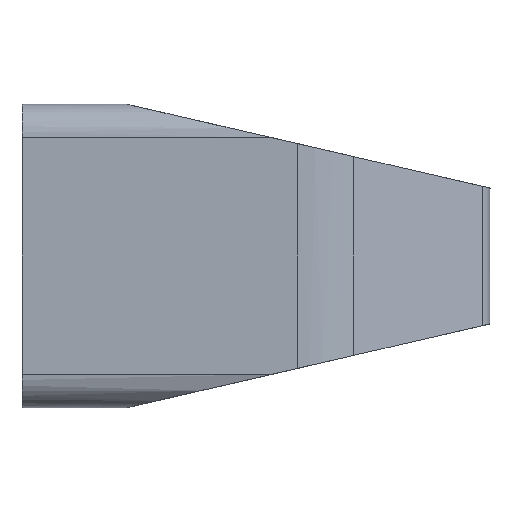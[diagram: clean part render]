
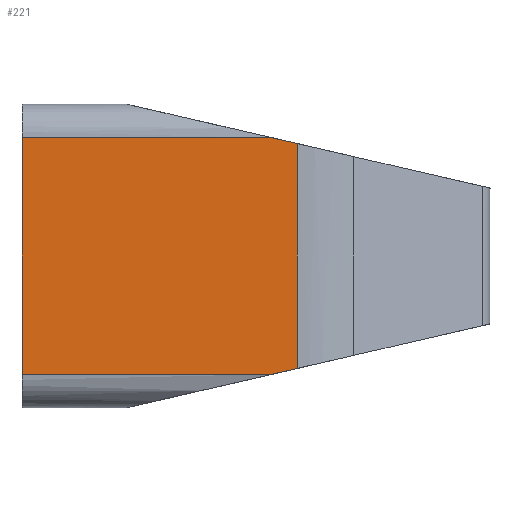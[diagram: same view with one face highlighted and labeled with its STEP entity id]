
A CAD part, left-side view. The second image highlights one B-rep face of the part: STEP entity #221.
In plain terms, the highlighted planar face has unit normal (-1, 0, 0).
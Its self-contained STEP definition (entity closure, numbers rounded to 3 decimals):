
#18 = CARTESIAN_POINT ( 'NONE',  ( -9., 0., 9. ) ) ;
#37 = VECTOR ( 'NONE', #460, 1000. ) ;
#46 = DIRECTION ( 'NONE',  ( 0., 0.974, 0.225 ) ) ;
#60 = CARTESIAN_POINT ( 'NONE',  ( -9., -30., 3.5 ) ) ;
#61 = VECTOR ( 'NONE', #679, 1000. ) ;
#71 = CARTESIAN_POINT ( 'NONE',  ( -9., -14.84, -7. ) ) ;
#81 = VERTEX_POINT ( 'NONE', #461 ) ;
#89 = DIRECTION ( 'NONE',  ( 1., 0., 0. ) ) ;
#123 = VECTOR ( 'NONE', #689, 1000. ) ;
#178 = EDGE_CURVE ( 'NONE', #1056, #81, #930, .T. ) ;
#188 = CARTESIAN_POINT ( 'NONE',  ( -9., -16.305, 9. ) ) ;
#221 = ADVANCED_FACE ( 'NONE', ( #370 ), #256, .F. ) ;
#249 = DIRECTION ( 'NONE',  ( 0., 0., -1. ) ) ;
#256 = PLANE ( 'NONE',  #1149 ) ;
#282 = VECTOR ( 'NONE', #336, 1000. ) ;
#284 = EDGE_CURVE ( 'NONE', #826, #81, #306, .T. ) ;
#306 = LINE ( 'NONE', #726, #123 ) ;
#316 = CARTESIAN_POINT ( 'NONE',  ( -9., -18., 7. ) ) ;
#336 = DIRECTION ( 'NONE',  ( 0., 0., -1. ) ) ;
#358 = CARTESIAN_POINT ( 'NONE',  ( -9., -14.84, 7. ) ) ;
#370 = FACE_OUTER_BOUND ( 'NONE', #838, .T. ) ;
#406 = ORIENTED_EDGE ( 'NONE', *, *, #1039, .F. ) ;
#441 = CARTESIAN_POINT ( 'NONE',  ( -9., -18., -7. ) ) ;
#444 = VERTEX_POINT ( 'NONE', #358 ) ;
#452 = CARTESIAN_POINT ( 'NONE',  ( -9., 0., 9. ) ) ;
#460 = DIRECTION ( 'NONE',  ( 0., 1., 0. ) ) ;
#461 = CARTESIAN_POINT ( 'NONE',  ( -9., -16.305, -6.662 ) ) ;
#472 = DIRECTION ( 'NONE',  ( 0., 0., -1. ) ) ;
#490 = ORIENTED_EDGE ( 'NONE', *, *, #284, .T. ) ;
#491 = CARTESIAN_POINT ( 'NONE',  ( -9., -16.305, 6.662 ) ) ;
#571 = ORIENTED_EDGE ( 'NONE', *, *, #178, .F. ) ;
#650 = EDGE_CURVE ( 'NONE', #1219, #1248, #827, .T. ) ;
#679 = DIRECTION ( 'NONE',  ( 0., 1., 0. ) ) ;
#683 = CARTESIAN_POINT ( 'NONE',  ( -9., 0., 7. ) ) ;
#689 = DIRECTION ( 'NONE',  ( 0., -0.974, 0.225 ) ) ;
#699 = CARTESIAN_POINT ( 'NONE',  ( -9., 0., -7. ) ) ;
#726 = CARTESIAN_POINT ( 'NONE',  ( -9., 0., -10.426 ) ) ;
#808 = EDGE_CURVE ( 'NONE', #1056, #444, #1000, .T. ) ;
#809 = VECTOR ( 'NONE', #249, 1000. ) ;
#826 = VERTEX_POINT ( 'NONE', #71 ) ;
#827 = LINE ( 'NONE', #18, #282 ) ;
#838 = EDGE_LOOP ( 'NONE', ( #406, #490, #571, #1091, #1098, #905 ) ) ;
#905 = ORIENTED_EDGE ( 'NONE', *, *, #650, .T. ) ;
#930 = LINE ( 'NONE', #188, #809 ) ;
#1000 = LINE ( 'NONE', #60, #1203 ) ;
#1039 = EDGE_CURVE ( 'NONE', #826, #1248, #1089, .T. ) ;
#1056 = VERTEX_POINT ( 'NONE', #491 ) ;
#1089 = LINE ( 'NONE', #441, #61 ) ;
#1091 = ORIENTED_EDGE ( 'NONE', *, *, #808, .T. ) ;
#1098 = ORIENTED_EDGE ( 'NONE', *, *, #1158, .T. ) ;
#1103 = LINE ( 'NONE', #316, #37 ) ;
#1149 = AXIS2_PLACEMENT_3D ( 'NONE', #452, #89, #472 ) ;
#1158 = EDGE_CURVE ( 'NONE', #444, #1219, #1103, .T. ) ;
#1203 = VECTOR ( 'NONE', #46, 1000. ) ;
#1219 = VERTEX_POINT ( 'NONE', #683 ) ;
#1248 = VERTEX_POINT ( 'NONE', #699 ) ;
